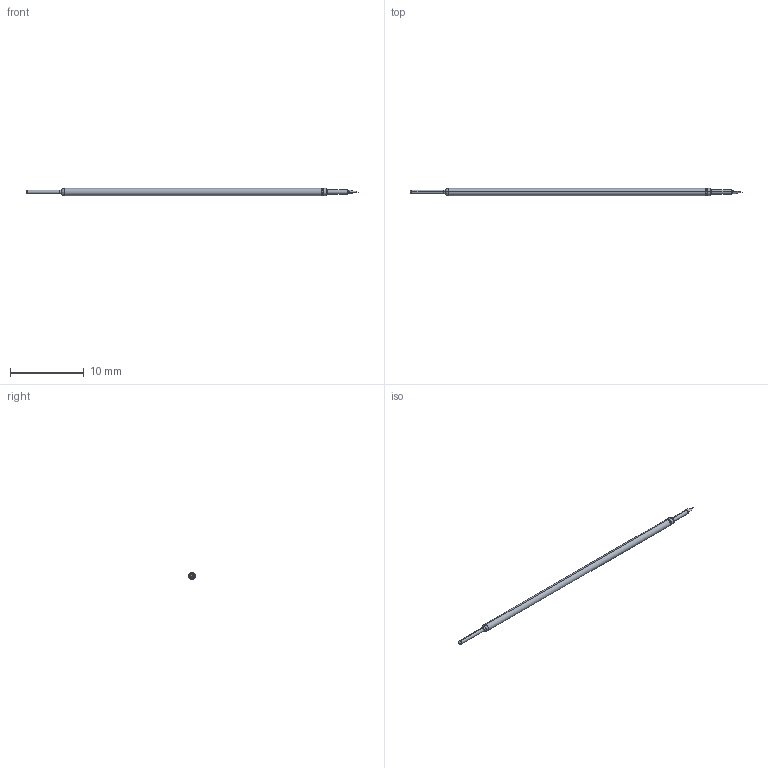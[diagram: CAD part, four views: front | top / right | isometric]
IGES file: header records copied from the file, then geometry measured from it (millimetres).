
Start section: SolidWorks IGES file using analytic representation for surfaces
Global section: file name: C:\Documents and Settings\mrumschlag\Desktop\changes\new\test\T1 RECD.IGS; native system: SolidWorks 2011; preprocessor: SolidWorks 2011; author: mrumschlag; date: 110630.142317; units: inch
Bounding box: 45.03 x 0.97 x 0.97 mm (x, y, z)
Surface area: 123.8 mm2 (no closed solid volume)
Topology: 0 solids, 0 shells, 33 faces, 186 edges, 184 vertices
Faces by surface type: revolution 18, bspline 15
